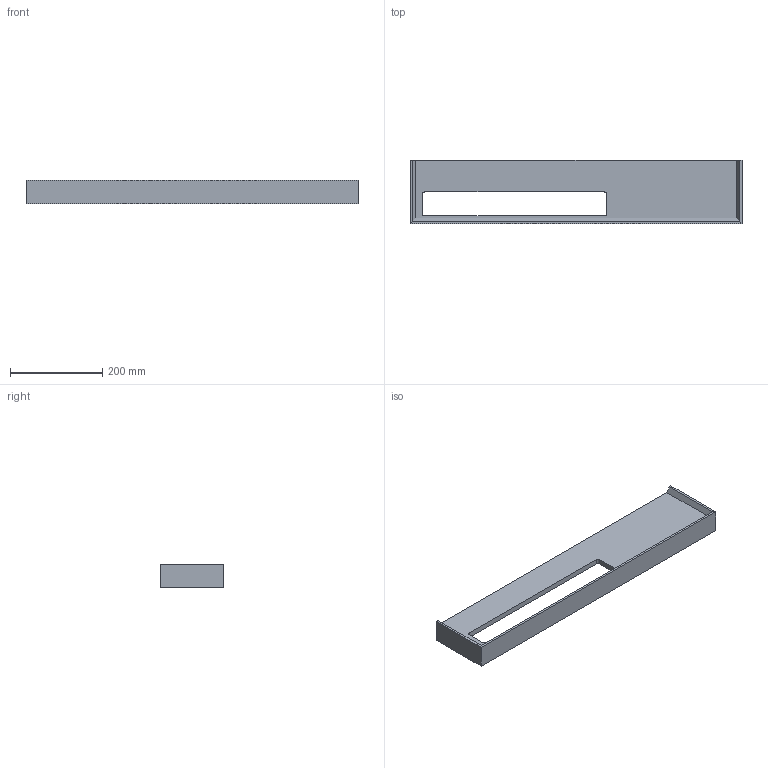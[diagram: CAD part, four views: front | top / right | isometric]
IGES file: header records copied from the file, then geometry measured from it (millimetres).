
Start section: Data from Parasolid IGES Translator 22.0.50, Copyright(c) 2006 Siemens P LM Software. All Rights Reserved.
Global section: file name: noorth-haus-H 5 D 13 W 72_4060.igs; native system: By Siemens PLM Incorporated; preprocessor: XPlus GENERIC/IGES 22.0.50; author: Noname; organization: Noname; date: 20251207.155633; units: metre
Bounding box: 720 x 138 x 50 mm (x, y, z)
Volume: 1346417.9 mm3; surface area: 284399.7 mm2
Topology: 4 solids, 4 shells, 35 faces, 81 edges, 54 vertices
Faces by surface type: plane 31, cylinder 4
